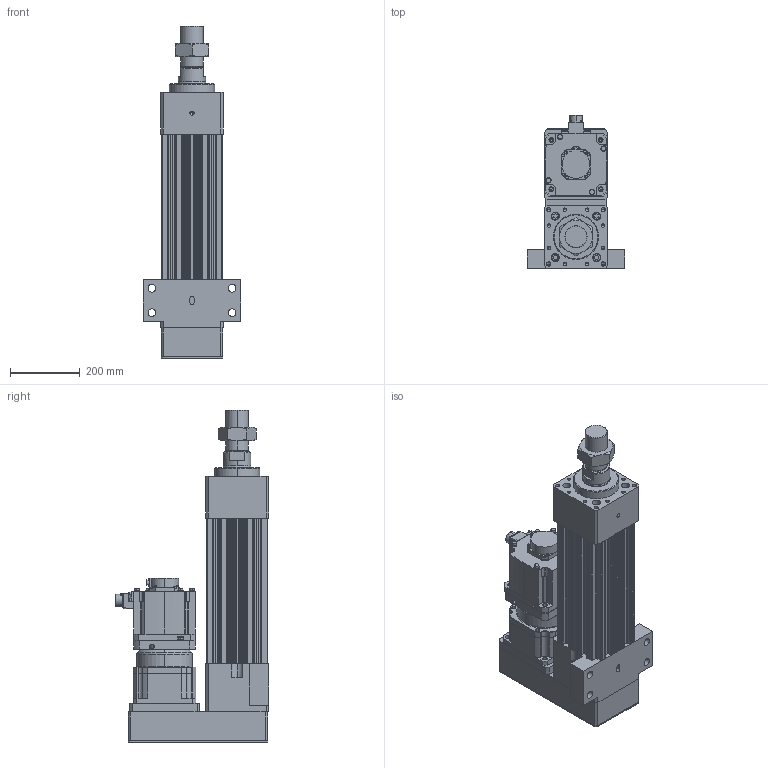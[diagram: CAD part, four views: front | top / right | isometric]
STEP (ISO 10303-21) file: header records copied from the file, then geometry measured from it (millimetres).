
FILE_DESCRIPTION (( 'STEP AP203' ), '1' );
FILE_NAME ('HES180HS-P100-W050G00-M-FFC.STEP', '2023-02-01T07:03:02', ( 'tms' ), ( '' ), 'SwSTEP 2.0', 'SolidWorks 2013', '' );
FILE_SCHEMA (( 'CONFIG_CONTROL_DESIGN' ));
Length unit declared in the file: millimetre
Products named in the file (9): HES180 ROD M ST100; AB1801; M64X2.0P; HG-SR502; P0403600401; P1301600001; HES180HS-P100-W050G00-M-FFC; HES180-P100-G180-FFC; AB180-003[HG-SR702B]
Assembly tree (8 placements, depth 3):
  HES180HS-P100-W050G00-M-FFC
    HES180-P100-G180-FFC
    HES180 ROD M ST100
    M64X2.0P
    AB180-003[HG-SR702B]
      AB1801
      P1301600001
      P0403600401
    HG-SR502
Bounding box: 280 x 438.85 x 952 mm (x, y, z)
Volume: 24080622.3 mm3; surface area: 1964453.9 mm2
Topology: 4 solids, 19 shells, 1474 faces, 3821 edges, 2463 vertices
Faces by surface type: cylinder 686, plane 553, cone 168, bspline 63, torus 4
Entity records: 53682 total; most frequent: CARTESIAN_POINT 16162, DIRECTION 7905, ORIENTED_EDGE 7498, EDGE_CURVE 3773, AXIS2_PLACEMENT_3D 2986, VERTEX_POINT 2463, VECTOR 1933, LINE 1933
